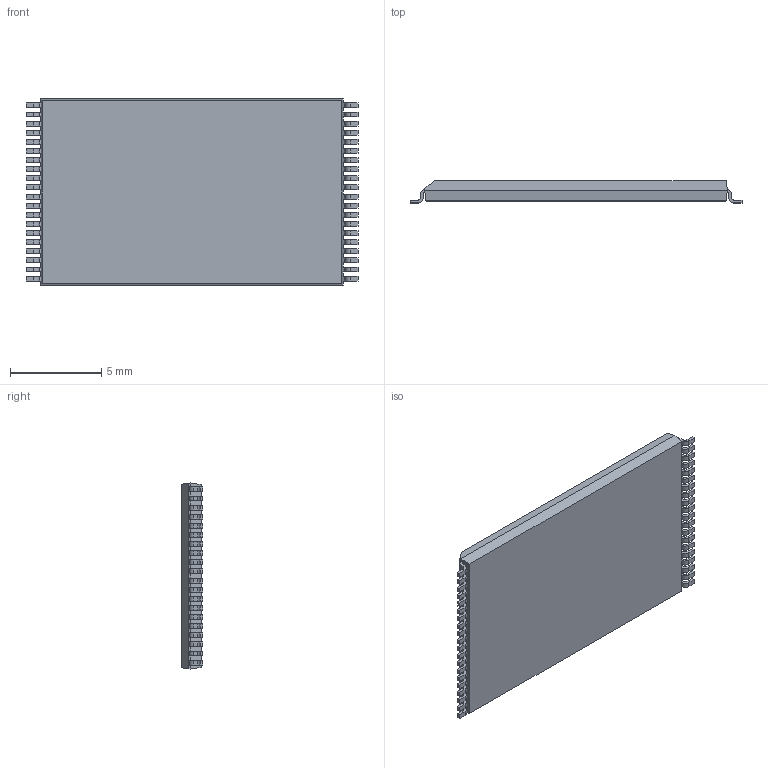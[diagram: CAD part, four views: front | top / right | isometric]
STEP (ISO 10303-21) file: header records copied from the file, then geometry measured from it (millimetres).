
FILE_DESCRIPTION (( 'STEP AP214' ), '1' );
FILE_NAME ('TSSOP50P1800X120-40_MO-142.CC.STEP', '2014-10-29T11:01:02', ( 'Tester2' ), ( '' ), 'SwSTEP 2.0', 'SolidWorks 2012', '' );
FILE_SCHEMA (( 'AUTOMOTIVE_DESIGN' ));
Length unit declared in the file: millimetre
Products named in the file (1): TSSOP50P1800X120-40_MO-142.CC
Bounding box: 18.2 x 1.2 x 10.2 mm (x, y, z)
Volume: 185 mm3; surface area: 428.3 mm2
Topology: 1 solids, 1 shells, 454 faces, 1349 edges, 898 vertices
Faces by surface type: plane 292, cylinder 162
Entity records: 20112 total; most frequent: CARTESIAN_POINT 2702, ORIENTED_EDGE 2698, DIRECTION 2583, EDGE_CURVE 1349, VECTOR 1025, LINE 1025, VERTEX_POINT 898, AXIS2_PLACEMENT_3D 779
